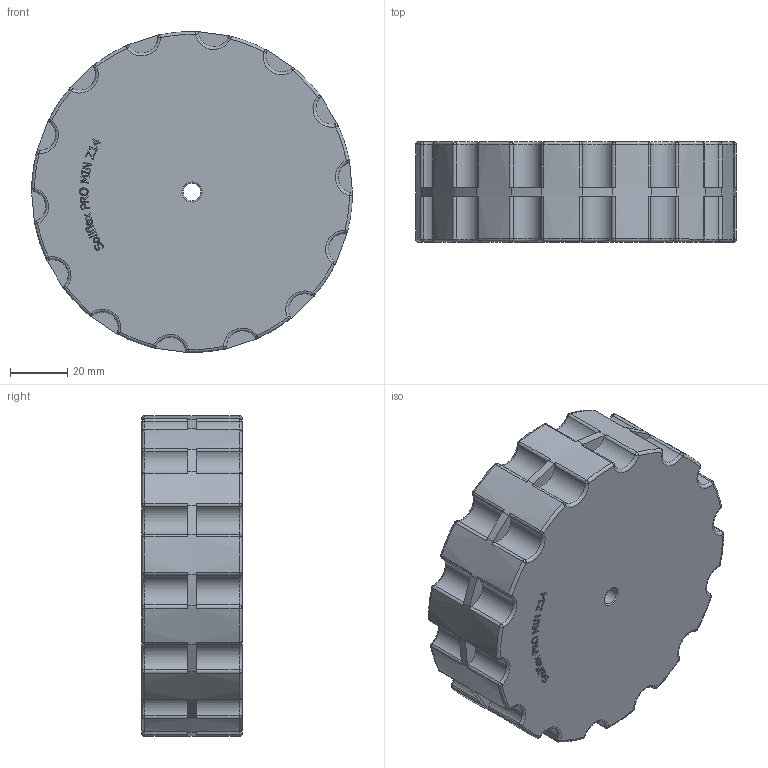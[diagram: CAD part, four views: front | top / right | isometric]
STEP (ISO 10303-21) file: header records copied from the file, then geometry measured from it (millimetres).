
FILE_DESCRIPTION(/* description */ ('Unknown'),/* implementation_level */ '2;1');
FILE_NAME(/* name */ 'GEN0001-D251 MIN Z14 D112.2 PB06 BLUE',/* time_stamp */ '2019-02-26T15:20:23+01:00',/* author */ ('Unknown'),/* organization */ ('Unknown'),/* preprocessor_version */ 'ST-DEVELOPER v16.7',/* originating_system */ 'DEX',/* authorisation */ $);
FILE_SCHEMA (('AUTOMOTIVE_DESIGN {1 0 10303 214 3 1 1}'));
Length unit declared in the file: millimetre
Products named in the file (1): GEN0001-D251 MIN Z14 D112.2 PB06 BLUE
Bounding box: 112.2 x 35 x 112.17 mm (x, y, z)
Volume: 327450.6 mm3; surface area: 34045.1 mm2
Topology: 1 solids, 1 shells, 429 faces, 1095 edges, 636 vertices
Faces by surface type: plane 196, cylinder 99, torus 58, sphere 56, bspline 20
Full cylindrical faces by diameter (mm): 6 x1
Entity records: 13530 total; most frequent: CARTESIAN_POINT 3312, DIRECTION 2236, ORIENTED_EDGE 2064, EDGE_CURVE 1032, AXIS2_PLACEMENT_3D 834, VERTEX_POINT 636, LINE 568, VECTOR 568
